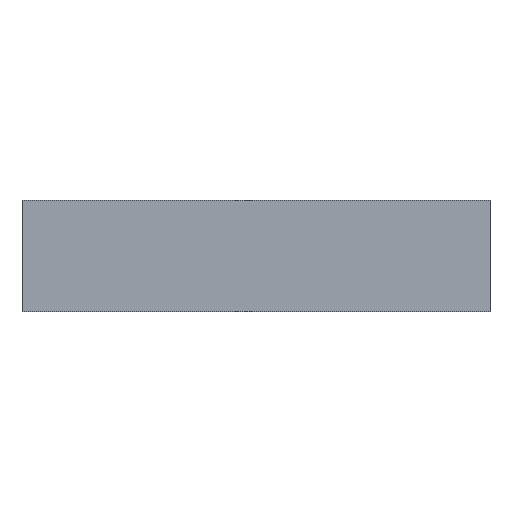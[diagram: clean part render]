
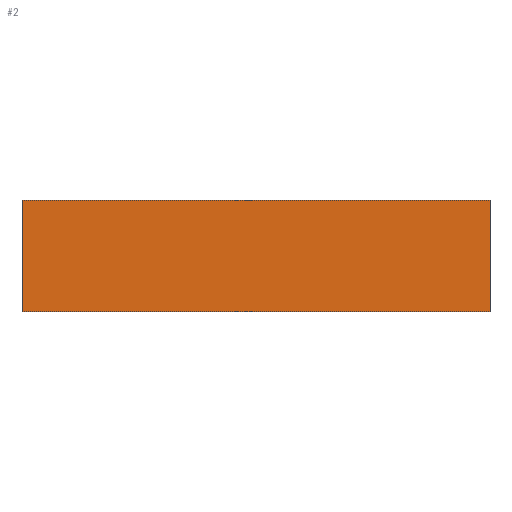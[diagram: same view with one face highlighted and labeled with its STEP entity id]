
A CAD part, front view. The second image highlights one B-rep face of the part: STEP entity #2.
In plain terms, the highlighted planar face has unit normal (0, -1, 0).
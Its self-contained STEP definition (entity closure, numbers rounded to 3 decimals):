
#2 = ADVANCED_FACE ( 'NONE', ( #99 ), #488, .F. ) ;
#49 = VECTOR ( 'NONE', #801, 1000. ) ;
#50 = LINE ( 'NONE', #800, #49 ) ;
#99 = FACE_OUTER_BOUND ( 'NONE', #108, .T. ) ;
#108 = EDGE_LOOP ( 'NONE', ( #247, #248, #261, #262 ) ) ;
#247 = ORIENTED_EDGE ( 'NONE', *, *, #529, .T. ) ;
#248 = ORIENTED_EDGE ( 'NONE', *, *, #554, .F. ) ;
#261 = ORIENTED_EDGE ( 'NONE', *, *, #558, .F. ) ;
#262 = ORIENTED_EDGE ( 'NONE', *, *, #507, .T. ) ;
#318 = VECTOR ( 'NONE', #829, 1000. ) ;
#319 = LINE ( 'NONE', #828, #318 ) ;
#354 = LINE ( 'NONE', #864, #355 ) ;
#355 = VECTOR ( 'NONE', #865, 1000. ) ;
#360 = LINE ( 'NONE', #870, #361 ) ;
#361 = VECTOR ( 'NONE', #871, 1000. ) ;
#445 = VERTEX_POINT ( 'NONE', #733 ) ;
#449 = VERTEX_POINT ( 'NONE', #739 ) ;
#457 = VERTEX_POINT ( 'NONE', #747 ) ;
#463 = VERTEX_POINT ( 'NONE', #753 ) ;
#488 = PLANE ( 'NONE',  #561 ) ;
#507 = EDGE_CURVE ( 'NONE', #449, #445, #50, .T. ) ;
#529 = EDGE_CURVE ( 'NONE', #445, #457, #319, .T. ) ;
#554 = EDGE_CURVE ( 'NONE', #463, #457, #354, .T. ) ;
#558 = EDGE_CURVE ( 'NONE', #449, #463, #360, .T. ) ;
#561 = AXIS2_PLACEMENT_3D ( 'NONE', #625, #620, #619 ) ;
#619 = DIRECTION ( 'NONE',  ( -1., 0., 0. ) ) ;
#620 = DIRECTION ( 'NONE',  ( 0., 1., 0. ) ) ;
#625 = CARTESIAN_POINT ( 'NONE',  ( -251., 0., 120. ) ) ;
#733 = CARTESIAN_POINT ( 'NONE',  ( -251., 0., 0. ) ) ;
#739 = CARTESIAN_POINT ( 'NONE',  ( -251., 0., 120. ) ) ;
#747 = CARTESIAN_POINT ( 'NONE',  ( 251., 0., 0. ) ) ;
#753 = CARTESIAN_POINT ( 'NONE',  ( 251., 0., 120. ) ) ;
#800 = CARTESIAN_POINT ( 'NONE',  ( -251., 0., 120. ) ) ;
#801 = DIRECTION ( 'NONE',  ( 0., 0., -1. ) ) ;
#828 = CARTESIAN_POINT ( 'NONE',  ( -251., 0., 0. ) ) ;
#829 = DIRECTION ( 'NONE',  ( 1., 0., 0. ) ) ;
#864 = CARTESIAN_POINT ( 'NONE',  ( 251., 0., 120. ) ) ;
#865 = DIRECTION ( 'NONE',  ( 0., 0., -1. ) ) ;
#870 = CARTESIAN_POINT ( 'NONE',  ( -251., 0., 120. ) ) ;
#871 = DIRECTION ( 'NONE',  ( 1., 0., 0. ) ) ;
